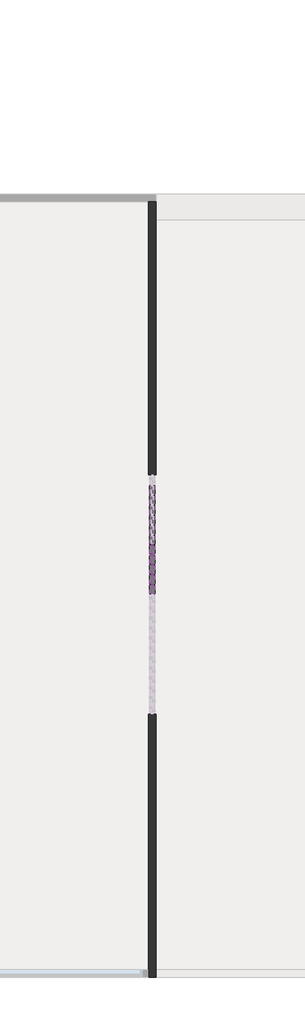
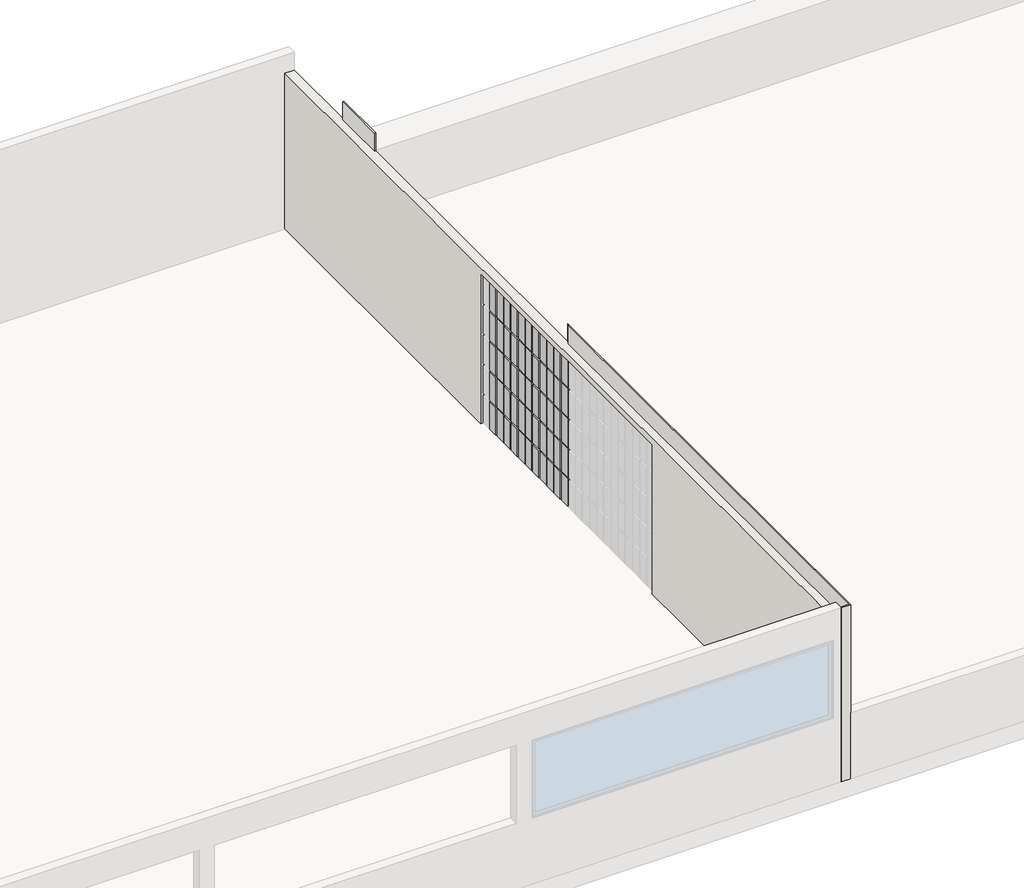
# One storey, part 5 of 9: 68 members, 55 plates, 1 wall.
"""IFC4 building model written with IfcOpenShell, lengths in millimetres."""

from ifc_helpers import new_model, si_unit, origin, place, context, project, spatial, faceted_brep, transform, mapped, element, save
from components import montante_retangular_30mm_quadrado_d4df406a, montante_retangular_30mm_quadrado_921f6540, montante_retangular_30mm_quadrado_d9064eb3, painel_do_sistema_vazio_vazio_aac5a565, painel_do_sistema_vazio_vazio_54d91eb3

model = new_model("IFC4")

# Units and contexts
model_context = context("Model", 3, world=origin())
ifc_project = project(units=[si_unit("LENGTHUNIT", "METRE", prefix="MILLI")], contexts=[model_context])

# Site, building, storey
site = spatial("IfcSite", under=ifc_project)
building = spatial("IfcBuilding", under=site)
storey = spatial("IfcBuildingStorey", under=building, Name="Garagem 1", Elevation=47850.0)

# Members
placement = place(None, origin())
montante_retangular_30mm_quadrado_shape = montante_retangular_30mm_quadrado_d4df406a(model_context)
element("IfcMember", 1, ObjectType="Montante retangular : 30mm Quadrado", at=placement, inside=storey, context=model_context, shape_type="MappedRepresentation", body=[
    mapped(montante_retangular_30mm_quadrado_shape, transform((-44730.8696428, 11087.259491, 50350.0), x_axis=(0.0, 0.0, 1.0), y_axis=(1.0, 0.0, 0.0), z_axis=(0.0, 1.0, 0.0))),
])
element("IfcMember", 2, ObjectType="Montante retangular : 30mm Quadrado", at=placement, inside=storey, context=model_context, shape_type="MappedRepresentation", body=[
    mapped(montante_retangular_30mm_quadrado_shape, transform((-44730.8696428, 11282.7371768, 50350.0), x_axis=(0.0, 0.0, 1.0), y_axis=(1.0, 0.0, 0.0), z_axis=(0.0, 1.0, 0.0))),
])
element("IfcMember", 3, ObjectType="Montante retangular : 30mm Quadrado", at=placement, inside=storey, context=model_context, shape_type="MappedRepresentation", body=[
    mapped(montante_retangular_30mm_quadrado_shape, transform((-44730.8696428, 11478.2148627, 50350.0), x_axis=(0.0, 0.0, 1.0), y_axis=(1.0, 0.0, 0.0), z_axis=(0.0, 1.0, 0.0))),
])
element("IfcMember", 4, ObjectType="Montante retangular : 30mm Quadrado", at=placement, inside=storey, context=model_context, shape_type="MappedRepresentation", body=[
    mapped(montante_retangular_30mm_quadrado_shape, transform((-44730.8696428, 11673.6925485, 50350.0), x_axis=(0.0, 0.0, 1.0), y_axis=(1.0, 0.0, 0.0), z_axis=(0.0, 1.0, 0.0))),
])
element("IfcMember", 5, ObjectType="Montante retangular : 30mm Quadrado", at=placement, inside=storey, context=model_context, shape_type="MappedRepresentation", body=[
    mapped(montante_retangular_30mm_quadrado_shape, transform((-44730.8696428, 11869.1702343, 50350.0), x_axis=(0.0, 0.0, 1.0), y_axis=(1.0, 0.0, 0.0), z_axis=(0.0, 1.0, 0.0))),
])
element("IfcMember", 6, ObjectType="Montante retangular : 30mm Quadrado", at=placement, inside=storey, context=model_context, shape_type="MappedRepresentation", body=[
    mapped(montante_retangular_30mm_quadrado_shape, transform((-44730.8696428, 12064.6479201, 50350.0), x_axis=(0.0, 0.0, 1.0), y_axis=(1.0, 0.0, 0.0), z_axis=(0.0, 1.0, 0.0))),
])
element("IfcMember", 7, ObjectType="Montante retangular : 30mm Quadrado", at=placement, inside=storey, context=model_context, shape_type="MappedRepresentation", body=[
    mapped(montante_retangular_30mm_quadrado_shape, transform((-44730.8696428, 12260.1256059, 50350.0), x_axis=(0.0, 0.0, 1.0), y_axis=(1.0, 0.0, 0.0), z_axis=(0.0, 1.0, 0.0))),
])
element("IfcMember", 8, ObjectType="Montante retangular : 30mm Quadrado", at=placement, inside=storey, context=model_context, shape_type="MappedRepresentation", body=[
    mapped(montante_retangular_30mm_quadrado_shape, transform((-44730.8696428, 12455.6032917, 50350.0), x_axis=(0.0, 0.0, 1.0), y_axis=(1.0, 0.0, 0.0), z_axis=(0.0, 1.0, 0.0))),
])
element("IfcMember", 9, ObjectType="Montante retangular : 30mm Quadrado", at=placement, inside=storey, context=model_context, shape_type="MappedRepresentation", body=[
    mapped(montante_retangular_30mm_quadrado_shape, transform((-44730.8696428, 12651.0809776, 50350.0), x_axis=(0.0, 0.0, 1.0), y_axis=(1.0, 0.0, 0.0), z_axis=(0.0, 1.0, 0.0))),
])
element("IfcMember", 10, ObjectType="Montante retangular : 30mm Quadrado", at=placement, inside=storey, context=model_context, shape_type="MappedRepresentation", body=[
    mapped(montante_retangular_30mm_quadrado_shape, transform((-44730.8696428, 12846.5586634, 50350.0), x_axis=(0.0, 0.0, 1.0), y_axis=(1.0, 0.0, 0.0), z_axis=(0.0, 1.0, 0.0))),
])
element("IfcMember", 11, ObjectType="Montante retangular : 30mm Quadrado", at=placement, inside=storey, context=model_context, shape_type="MappedRepresentation", body=[
    mapped(montante_retangular_30mm_quadrado_shape, transform((-44730.8696428, 11117.259491, 47850.0), x_axis=(0.0, 0.0, -1.0), y_axis=(1.0, 0.0, 0.0), z_axis=(0.0, -1.0, 0.0))),
])
element("IfcMember", 12, ObjectType="Montante retangular : 30mm Quadrado", at=placement, inside=storey, context=model_context, shape_type="MappedRepresentation", body=[
    mapped(montante_retangular_30mm_quadrado_shape, transform((-44730.8696428, 11312.7371768, 47850.0), x_axis=(0.0, 0.0, -1.0), y_axis=(1.0, 0.0, 0.0), z_axis=(0.0, -1.0, 0.0))),
])
element("IfcMember", 13, ObjectType="Montante retangular : 30mm Quadrado", at=placement, inside=storey, context=model_context, shape_type="MappedRepresentation", body=[
    mapped(montante_retangular_30mm_quadrado_shape, transform((-44730.8696428, 11508.2148627, 47850.0), x_axis=(0.0, 0.0, -1.0), y_axis=(1.0, 0.0, 0.0), z_axis=(0.0, -1.0, 0.0))),
])
element("IfcMember", 14, ObjectType="Montante retangular : 30mm Quadrado", at=placement, inside=storey, context=model_context, shape_type="MappedRepresentation", body=[
    mapped(montante_retangular_30mm_quadrado_shape, transform((-44730.8696428, 11703.6925485, 47850.0), x_axis=(0.0, 0.0, -1.0), y_axis=(1.0, 0.0, 0.0), z_axis=(0.0, -1.0, 0.0))),
])
element("IfcMember", 15, ObjectType="Montante retangular : 30mm Quadrado", at=placement, inside=storey, context=model_context, shape_type="MappedRepresentation", body=[
    mapped(montante_retangular_30mm_quadrado_shape, transform((-44730.8696428, 11899.1702343, 47850.0), x_axis=(0.0, 0.0, -1.0), y_axis=(1.0, 0.0, 0.0), z_axis=(0.0, -1.0, 0.0))),
])
element("IfcMember", 16, ObjectType="Montante retangular : 30mm Quadrado", at=placement, inside=storey, context=model_context, shape_type="MappedRepresentation", body=[
    mapped(montante_retangular_30mm_quadrado_shape, transform((-44730.8696428, 12094.6479201, 47850.0), x_axis=(0.0, 0.0, -1.0), y_axis=(1.0, 0.0, 0.0), z_axis=(0.0, -1.0, 0.0))),
])
element("IfcMember", 17, ObjectType="Montante retangular : 30mm Quadrado", at=placement, inside=storey, context=model_context, shape_type="MappedRepresentation", body=[
    mapped(montante_retangular_30mm_quadrado_shape, transform((-44730.8696428, 12290.1256059, 47850.0), x_axis=(0.0, 0.0, -1.0), y_axis=(1.0, 0.0, 0.0), z_axis=(0.0, -1.0, 0.0))),
])
element("IfcMember", 18, ObjectType="Montante retangular : 30mm Quadrado", at=placement, inside=storey, context=model_context, shape_type="MappedRepresentation", body=[
    mapped(montante_retangular_30mm_quadrado_shape, transform((-44730.8696428, 12485.6032917, 47850.0), x_axis=(0.0, 0.0, -1.0), y_axis=(1.0, 0.0, 0.0), z_axis=(0.0, -1.0, 0.0))),
])
element("IfcMember", 19, ObjectType="Montante retangular : 30mm Quadrado", at=placement, inside=storey, context=model_context, shape_type="MappedRepresentation", body=[
    mapped(montante_retangular_30mm_quadrado_shape, transform((-44730.8696428, 12681.0809776, 47850.0), x_axis=(0.0, 0.0, -1.0), y_axis=(1.0, 0.0, 0.0), z_axis=(0.0, -1.0, 0.0))),
])
element("IfcMember", 20, ObjectType="Montante retangular : 30mm Quadrado", at=placement, inside=storey, context=model_context, shape_type="MappedRepresentation", body=[
    mapped(montante_retangular_30mm_quadrado_shape, transform((-44730.8696428, 12876.5586634, 47850.0), x_axis=(0.0, 0.0, -1.0), y_axis=(1.0, 0.0, 0.0), z_axis=(0.0, -1.0, 0.0))),
])
montante_retangular_30mm_quadrado_2_shape = montante_retangular_30mm_quadrado_921f6540(model_context)
element("IfcMember", 21, ObjectType="Montante retangular : 30mm Quadrado", at=placement, inside=storey, context=model_context, shape_type="MappedRepresentation", body=[
    mapped(montante_retangular_30mm_quadrado_2_shape, transform((-44730.8696428, 11087.259491, 48350.0), x_axis=(0.0, 0.0, 1.0), y_axis=(1.0, 0.0, 0.0), z_axis=(0.0, 1.0, 0.0))),
])
element("IfcMember", 22, ObjectType="Montante retangular : 30mm Quadrado", at=placement, inside=storey, context=model_context, shape_type="MappedRepresentation", body=[
    mapped(montante_retangular_30mm_quadrado_2_shape, transform((-44730.8696428, 11282.7371768, 48350.0), x_axis=(0.0, 0.0, 1.0), y_axis=(1.0, 0.0, 0.0), z_axis=(0.0, 1.0, 0.0))),
])
element("IfcMember", 23, ObjectType="Montante retangular : 30mm Quadrado", at=placement, inside=storey, context=model_context, shape_type="MappedRepresentation", body=[
    mapped(montante_retangular_30mm_quadrado_2_shape, transform((-44730.8696428, 11478.2148627, 48350.0), x_axis=(0.0, 0.0, 1.0), y_axis=(1.0, 0.0, 0.0), z_axis=(0.0, 1.0, 0.0))),
])
element("IfcMember", 24, ObjectType="Montante retangular : 30mm Quadrado", at=placement, inside=storey, context=model_context, shape_type="MappedRepresentation", body=[
    mapped(montante_retangular_30mm_quadrado_2_shape, transform((-44730.8696428, 11673.6925485, 48350.0), x_axis=(0.0, 0.0, 1.0), y_axis=(1.0, 0.0, 0.0), z_axis=(0.0, 1.0, 0.0))),
])
element("IfcMember", 25, ObjectType="Montante retangular : 30mm Quadrado", at=placement, inside=storey, context=model_context, shape_type="MappedRepresentation", body=[
    mapped(montante_retangular_30mm_quadrado_2_shape, transform((-44730.8696428, 11869.1702343, 48350.0), x_axis=(0.0, 0.0, 1.0), y_axis=(1.0, 0.0, 0.0), z_axis=(0.0, 1.0, 0.0))),
])
element("IfcMember", 26, ObjectType="Montante retangular : 30mm Quadrado", at=placement, inside=storey, context=model_context, shape_type="MappedRepresentation", body=[
    mapped(montante_retangular_30mm_quadrado_2_shape, transform((-44730.8696428, 12064.6479201, 48350.0), x_axis=(0.0, 0.0, 1.0), y_axis=(1.0, 0.0, 0.0), z_axis=(0.0, 1.0, 0.0))),
])
element("IfcMember", 27, ObjectType="Montante retangular : 30mm Quadrado", at=placement, inside=storey, context=model_context, shape_type="MappedRepresentation", body=[
    mapped(montante_retangular_30mm_quadrado_2_shape, transform((-44730.8696428, 12260.1256059, 48350.0), x_axis=(0.0, 0.0, 1.0), y_axis=(1.0, 0.0, 0.0), z_axis=(0.0, 1.0, 0.0))),
])
element("IfcMember", 28, ObjectType="Montante retangular : 30mm Quadrado", at=placement, inside=storey, context=model_context, shape_type="MappedRepresentation", body=[
    mapped(montante_retangular_30mm_quadrado_2_shape, transform((-44730.8696428, 12455.6032917, 48350.0), x_axis=(0.0, 0.0, 1.0), y_axis=(1.0, 0.0, 0.0), z_axis=(0.0, 1.0, 0.0))),
])
element("IfcMember", 29, ObjectType="Montante retangular : 30mm Quadrado", at=placement, inside=storey, context=model_context, shape_type="MappedRepresentation", body=[
    mapped(montante_retangular_30mm_quadrado_2_shape, transform((-44730.8696428, 11087.259491, 48850.0), x_axis=(0.0, 0.0, 1.0), y_axis=(1.0, 0.0, 0.0), z_axis=(0.0, 1.0, 0.0))),
])
element("IfcMember", 30, ObjectType="Montante retangular : 30mm Quadrado", at=placement, inside=storey, context=model_context, shape_type="MappedRepresentation", body=[
    mapped(montante_retangular_30mm_quadrado_2_shape, transform((-44730.8696428, 11282.7371768, 48850.0), x_axis=(0.0, 0.0, 1.0), y_axis=(1.0, 0.0, 0.0), z_axis=(0.0, 1.0, 0.0))),
])
element("IfcMember", 31, ObjectType="Montante retangular : 30mm Quadrado", at=placement, inside=storey, context=model_context, shape_type="MappedRepresentation", body=[
    mapped(montante_retangular_30mm_quadrado_2_shape, transform((-44730.8696428, 11478.2148627, 48850.0), x_axis=(0.0, 0.0, 1.0), y_axis=(1.0, 0.0, 0.0), z_axis=(0.0, 1.0, 0.0))),
])
element("IfcMember", 32, ObjectType="Montante retangular : 30mm Quadrado", at=placement, inside=storey, context=model_context, shape_type="MappedRepresentation", body=[
    mapped(montante_retangular_30mm_quadrado_2_shape, transform((-44730.8696428, 11673.6925485, 48850.0), x_axis=(0.0, 0.0, 1.0), y_axis=(1.0, 0.0, 0.0), z_axis=(0.0, 1.0, 0.0))),
])
element("IfcMember", 33, ObjectType="Montante retangular : 30mm Quadrado", at=placement, inside=storey, context=model_context, shape_type="MappedRepresentation", body=[
    mapped(montante_retangular_30mm_quadrado_2_shape, transform((-44730.8696428, 11869.1702343, 48850.0), x_axis=(0.0, 0.0, 1.0), y_axis=(1.0, 0.0, 0.0), z_axis=(0.0, 1.0, 0.0))),
])
element("IfcMember", 34, ObjectType="Montante retangular : 30mm Quadrado", at=placement, inside=storey, context=model_context, shape_type="MappedRepresentation", body=[
    mapped(montante_retangular_30mm_quadrado_2_shape, transform((-44730.8696428, 11087.259491, 49350.0), x_axis=(0.0, 0.0, 1.0), y_axis=(1.0, 0.0, 0.0), z_axis=(0.0, 1.0, 0.0))),
])
element("IfcMember", 35, ObjectType="Montante retangular : 30mm Quadrado", at=placement, inside=storey, context=model_context, shape_type="MappedRepresentation", body=[
    mapped(montante_retangular_30mm_quadrado_2_shape, transform((-44730.8696428, 11282.7371768, 49350.0), x_axis=(0.0, 0.0, 1.0), y_axis=(1.0, 0.0, 0.0), z_axis=(0.0, 1.0, 0.0))),
])
element("IfcMember", 36, ObjectType="Montante retangular : 30mm Quadrado", at=placement, inside=storey, context=model_context, shape_type="MappedRepresentation", body=[
    mapped(montante_retangular_30mm_quadrado_2_shape, transform((-44730.8696428, 11478.2148627, 49350.0), x_axis=(0.0, 0.0, 1.0), y_axis=(1.0, 0.0, 0.0), z_axis=(0.0, 1.0, 0.0))),
])
element("IfcMember", 37, ObjectType="Montante retangular : 30mm Quadrado", at=placement, inside=storey, context=model_context, shape_type="MappedRepresentation", body=[
    mapped(montante_retangular_30mm_quadrado_2_shape, transform((-44730.8696428, 11673.6925485, 49350.0), x_axis=(0.0, 0.0, 1.0), y_axis=(1.0, 0.0, 0.0), z_axis=(0.0, 1.0, 0.0))),
])
element("IfcMember", 38, ObjectType="Montante retangular : 30mm Quadrado", at=placement, inside=storey, context=model_context, shape_type="MappedRepresentation", body=[
    mapped(montante_retangular_30mm_quadrado_2_shape, transform((-44730.8696428, 11869.1702343, 49350.0), x_axis=(0.0, 0.0, 1.0), y_axis=(1.0, 0.0, 0.0), z_axis=(0.0, 1.0, 0.0))),
])
element("IfcMember", 39, ObjectType="Montante retangular : 30mm Quadrado", at=placement, inside=storey, context=model_context, shape_type="MappedRepresentation", body=[
    mapped(montante_retangular_30mm_quadrado_2_shape, transform((-44730.8696428, 11087.259491, 49850.0), x_axis=(0.0, 0.0, 1.0), y_axis=(1.0, 0.0, 0.0), z_axis=(0.0, 1.0, 0.0))),
])
element("IfcMember", 40, ObjectType="Montante retangular : 30mm Quadrado", at=placement, inside=storey, context=model_context, shape_type="MappedRepresentation", body=[
    mapped(montante_retangular_30mm_quadrado_2_shape, transform((-44730.8696428, 11282.7371768, 49850.0), x_axis=(0.0, 0.0, 1.0), y_axis=(1.0, 0.0, 0.0), z_axis=(0.0, 1.0, 0.0))),
])
element("IfcMember", 41, ObjectType="Montante retangular : 30mm Quadrado", at=placement, inside=storey, context=model_context, shape_type="MappedRepresentation", body=[
    mapped(montante_retangular_30mm_quadrado_2_shape, transform((-44730.8696428, 11478.2148627, 49850.0), x_axis=(0.0, 0.0, 1.0), y_axis=(1.0, 0.0, 0.0), z_axis=(0.0, 1.0, 0.0))),
])
element("IfcMember", 42, ObjectType="Montante retangular : 30mm Quadrado", at=placement, inside=storey, context=model_context, shape_type="MappedRepresentation", body=[
    mapped(montante_retangular_30mm_quadrado_2_shape, transform((-44730.8696428, 11673.6925485, 49850.0), x_axis=(0.0, 0.0, 1.0), y_axis=(1.0, 0.0, 0.0), z_axis=(0.0, 1.0, 0.0))),
])
element("IfcMember", 43, ObjectType="Montante retangular : 30mm Quadrado", at=placement, inside=storey, context=model_context, shape_type="MappedRepresentation", body=[
    mapped(montante_retangular_30mm_quadrado_2_shape, transform((-44730.8696428, 11869.1702343, 49850.0), x_axis=(0.0, 0.0, 1.0), y_axis=(1.0, 0.0, 0.0), z_axis=(0.0, 1.0, 0.0))),
])
montante_retangular_30mm_quadrado_3_shape = montante_retangular_30mm_quadrado_d9064eb3(model_context)
element("IfcMember", 44, ObjectType="Montante retangular : 30mm Quadrado", at=placement, inside=storey, context=model_context, shape_type="MappedRepresentation", body=[
    mapped(montante_retangular_30mm_quadrado_3_shape, transform((-44730.8696428, 11102.259491, 47850.0), x_axis=(0.0, 1.0, 0.0), y_axis=(1.0, 0.0, 0.0), z_axis=(0.0, 0.0, -1.0))),
])
element("IfcMember", 45, ObjectType="Montante retangular : 30mm Quadrado", at=placement, inside=storey, context=model_context, shape_type="MappedRepresentation", body=[
    mapped(montante_retangular_30mm_quadrado_3_shape, transform((-44730.8696428, 11297.7371768, 47850.0), x_axis=(0.0, 1.0, 0.0), y_axis=(1.0, 0.0, 0.0), z_axis=(0.0, 0.0, -1.0))),
])
element("IfcMember", 46, ObjectType="Montante retangular : 30mm Quadrado", at=placement, inside=storey, context=model_context, shape_type="MappedRepresentation", body=[
    mapped(montante_retangular_30mm_quadrado_3_shape, transform((-44730.8696428, 11493.2148627, 47850.0), x_axis=(0.0, 1.0, 0.0), y_axis=(1.0, 0.0, 0.0), z_axis=(0.0, 0.0, -1.0))),
])
element("IfcMember", 47, ObjectType="Montante retangular : 30mm Quadrado", at=placement, inside=storey, context=model_context, shape_type="MappedRepresentation", body=[
    mapped(montante_retangular_30mm_quadrado_3_shape, transform((-44730.8696428, 11688.6925485, 47850.0), x_axis=(0.0, 1.0, 0.0), y_axis=(1.0, 0.0, 0.0), z_axis=(0.0, 0.0, -1.0))),
])
element("IfcMember", 48, ObjectType="Montante retangular : 30mm Quadrado", at=placement, inside=storey, context=model_context, shape_type="MappedRepresentation", body=[
    mapped(montante_retangular_30mm_quadrado_3_shape, transform((-44730.8696428, 11884.1702343, 47850.0), x_axis=(0.0, 1.0, 0.0), y_axis=(1.0, 0.0, 0.0), z_axis=(0.0, 0.0, -1.0))),
])
element("IfcMember", 49, ObjectType="Montante retangular : 30mm Quadrado", at=placement, inside=storey, context=model_context, shape_type="MappedRepresentation", body=[
    mapped(montante_retangular_30mm_quadrado_3_shape, transform((-44730.8696428, 11102.259491, 48350.0), x_axis=(0.0, 1.0, 0.0), y_axis=(1.0, 0.0, 0.0), z_axis=(0.0, 0.0, -1.0))),
])
element("IfcMember", 50, ObjectType="Montante retangular : 30mm Quadrado", at=placement, inside=storey, context=model_context, shape_type="MappedRepresentation", body=[
    mapped(montante_retangular_30mm_quadrado_3_shape, transform((-44730.8696428, 11297.7371768, 48350.0), x_axis=(0.0, 1.0, 0.0), y_axis=(1.0, 0.0, 0.0), z_axis=(0.0, 0.0, -1.0))),
])
element("IfcMember", 51, ObjectType="Montante retangular : 30mm Quadrado", at=placement, inside=storey, context=model_context, shape_type="MappedRepresentation", body=[
    mapped(montante_retangular_30mm_quadrado_3_shape, transform((-44730.8696428, 11493.2148627, 48350.0), x_axis=(0.0, 1.0, 0.0), y_axis=(1.0, 0.0, 0.0), z_axis=(0.0, 0.0, -1.0))),
])
element("IfcMember", 52, ObjectType="Montante retangular : 30mm Quadrado", at=placement, inside=storey, context=model_context, shape_type="MappedRepresentation", body=[
    mapped(montante_retangular_30mm_quadrado_3_shape, transform((-44730.8696428, 11688.6925485, 48350.0), x_axis=(0.0, 1.0, 0.0), y_axis=(1.0, 0.0, 0.0), z_axis=(0.0, 0.0, -1.0))),
])
element("IfcMember", 53, ObjectType="Montante retangular : 30mm Quadrado", at=placement, inside=storey, context=model_context, shape_type="MappedRepresentation", body=[
    mapped(montante_retangular_30mm_quadrado_3_shape, transform((-44730.8696428, 11884.1702343, 48350.0), x_axis=(0.0, 1.0, 0.0), y_axis=(1.0, 0.0, 0.0), z_axis=(0.0, 0.0, -1.0))),
])
element("IfcMember", 54, ObjectType="Montante retangular : 30mm Quadrado", at=placement, inside=storey, context=model_context, shape_type="MappedRepresentation", body=[
    mapped(montante_retangular_30mm_quadrado_3_shape, transform((-44730.8696428, 11102.259491, 48850.0), x_axis=(0.0, 1.0, 0.0), y_axis=(1.0, 0.0, 0.0), z_axis=(0.0, 0.0, -1.0))),
])
element("IfcMember", 55, ObjectType="Montante retangular : 30mm Quadrado", at=placement, inside=storey, context=model_context, shape_type="MappedRepresentation", body=[
    mapped(montante_retangular_30mm_quadrado_3_shape, transform((-44730.8696428, 11297.7371768, 48850.0), x_axis=(0.0, 1.0, 0.0), y_axis=(1.0, 0.0, 0.0), z_axis=(0.0, 0.0, -1.0))),
])
element("IfcMember", 56, ObjectType="Montante retangular : 30mm Quadrado", at=placement, inside=storey, context=model_context, shape_type="MappedRepresentation", body=[
    mapped(montante_retangular_30mm_quadrado_3_shape, transform((-44730.8696428, 11493.2148627, 48850.0), x_axis=(0.0, 1.0, 0.0), y_axis=(1.0, 0.0, 0.0), z_axis=(0.0, 0.0, -1.0))),
])
element("IfcMember", 57, ObjectType="Montante retangular : 30mm Quadrado", at=placement, inside=storey, context=model_context, shape_type="MappedRepresentation", body=[
    mapped(montante_retangular_30mm_quadrado_3_shape, transform((-44730.8696428, 11688.6925485, 48850.0), x_axis=(0.0, 1.0, 0.0), y_axis=(1.0, 0.0, 0.0), z_axis=(0.0, 0.0, -1.0))),
])
element("IfcMember", 58, ObjectType="Montante retangular : 30mm Quadrado", at=placement, inside=storey, context=model_context, shape_type="MappedRepresentation", body=[
    mapped(montante_retangular_30mm_quadrado_3_shape, transform((-44730.8696428, 11884.1702343, 48850.0), x_axis=(0.0, 1.0, 0.0), y_axis=(1.0, 0.0, 0.0), z_axis=(0.0, 0.0, -1.0))),
])
element("IfcMember", 59, ObjectType="Montante retangular : 30mm Quadrado", at=placement, inside=storey, context=model_context, shape_type="MappedRepresentation", body=[
    mapped(montante_retangular_30mm_quadrado_3_shape, transform((-44730.8696428, 11102.259491, 49350.0), x_axis=(0.0, 1.0, 0.0), y_axis=(1.0, 0.0, 0.0), z_axis=(0.0, 0.0, -1.0))),
])
element("IfcMember", 60, ObjectType="Montante retangular : 30mm Quadrado", at=placement, inside=storey, context=model_context, shape_type="MappedRepresentation", body=[
    mapped(montante_retangular_30mm_quadrado_3_shape, transform((-44730.8696428, 11297.7371768, 49350.0), x_axis=(0.0, 1.0, 0.0), y_axis=(1.0, 0.0, 0.0), z_axis=(0.0, 0.0, -1.0))),
])
element("IfcMember", 61, ObjectType="Montante retangular : 30mm Quadrado", at=placement, inside=storey, context=model_context, shape_type="MappedRepresentation", body=[
    mapped(montante_retangular_30mm_quadrado_3_shape, transform((-44730.8696428, 11493.2148627, 49350.0), x_axis=(0.0, 1.0, 0.0), y_axis=(1.0, 0.0, 0.0), z_axis=(0.0, 0.0, -1.0))),
])
element("IfcMember", 62, ObjectType="Montante retangular : 30mm Quadrado", at=placement, inside=storey, context=model_context, shape_type="MappedRepresentation", body=[
    mapped(montante_retangular_30mm_quadrado_3_shape, transform((-44730.8696428, 11688.6925485, 49350.0), x_axis=(0.0, 1.0, 0.0), y_axis=(1.0, 0.0, 0.0), z_axis=(0.0, 0.0, -1.0))),
])
element("IfcMember", 63, ObjectType="Montante retangular : 30mm Quadrado", at=placement, inside=storey, context=model_context, shape_type="MappedRepresentation", body=[
    mapped(montante_retangular_30mm_quadrado_3_shape, transform((-44730.8696428, 11884.1702343, 49350.0), x_axis=(0.0, 1.0, 0.0), y_axis=(1.0, 0.0, 0.0), z_axis=(0.0, 0.0, -1.0))),
])
element("IfcMember", 64, ObjectType="Montante retangular : 30mm Quadrado", at=placement, inside=storey, context=model_context, shape_type="MappedRepresentation", body=[
    mapped(montante_retangular_30mm_quadrado_3_shape, transform((-44730.8696428, 11102.259491, 49850.0), x_axis=(0.0, 1.0, 0.0), y_axis=(1.0, 0.0, 0.0), z_axis=(0.0, 0.0, -1.0))),
])
element("IfcMember", 65, ObjectType="Montante retangular : 30mm Quadrado", at=placement, inside=storey, context=model_context, shape_type="MappedRepresentation", body=[
    mapped(montante_retangular_30mm_quadrado_3_shape, transform((-44730.8696428, 11297.7371768, 49850.0), x_axis=(0.0, 1.0, 0.0), y_axis=(1.0, 0.0, 0.0), z_axis=(0.0, 0.0, -1.0))),
])
element("IfcMember", 66, ObjectType="Montante retangular : 30mm Quadrado", at=placement, inside=storey, context=model_context, shape_type="MappedRepresentation", body=[
    mapped(montante_retangular_30mm_quadrado_3_shape, transform((-44730.8696428, 11493.2148627, 49850.0), x_axis=(0.0, 1.0, 0.0), y_axis=(1.0, 0.0, 0.0), z_axis=(0.0, 0.0, -1.0))),
])
element("IfcMember", 67, ObjectType="Montante retangular : 30mm Quadrado", at=placement, inside=storey, context=model_context, shape_type="MappedRepresentation", body=[
    mapped(montante_retangular_30mm_quadrado_3_shape, transform((-44730.8696428, 11688.6925485, 49850.0), x_axis=(0.0, 1.0, 0.0), y_axis=(1.0, 0.0, 0.0), z_axis=(0.0, 0.0, -1.0))),
])
element("IfcMember", 68, ObjectType="Montante retangular : 30mm Quadrado", at=placement, inside=storey, context=model_context, shape_type="MappedRepresentation", body=[
    mapped(montante_retangular_30mm_quadrado_3_shape, transform((-44730.8696428, 11884.1702343, 49850.0), x_axis=(0.0, 1.0, 0.0), y_axis=(1.0, 0.0, 0.0), z_axis=(0.0, 0.0, -1.0))),
])

# Plates
painel_do_sistema_vazio_vazio_shape = painel_do_sistema_vazio_vazio_aac5a565(model_context)
element("IfcPlate", 69, ObjectType="Painel do sistema vazio : Vazio", at=placement, inside=storey, context=model_context, shape_type="MappedRepresentation", body=[
    mapped(painel_do_sistema_vazio_vazio_shape, transform((-44730.8696428, 11004.5206481, 47880.0), x_axis=(0.0, 1.0, 0.0), y_axis=(-1.0, 0.0, 0.0), z_axis=(0.0, 0.0, 1.0))),
])
element("IfcPlate", 70, ObjectType="Painel do sistema vazio : Vazio", at=placement, inside=storey, context=model_context, shape_type="MappedRepresentation", body=[
    mapped(painel_do_sistema_vazio_vazio_shape, transform((-44730.8696428, 11199.9983339, 47880.0), x_axis=(0.0, 1.0, 0.0), y_axis=(-1.0, 0.0, 0.0), z_axis=(0.0, 0.0, 1.0))),
])
element("IfcPlate", 71, ObjectType="Painel do sistema vazio : Vazio", at=placement, inside=storey, context=model_context, shape_type="MappedRepresentation", body=[
    mapped(painel_do_sistema_vazio_vazio_shape, transform((-44730.8696428, 11395.4760197, 47880.0), x_axis=(0.0, 1.0, 0.0), y_axis=(-1.0, 0.0, 0.0), z_axis=(0.0, 0.0, 1.0))),
])
element("IfcPlate", 72, ObjectType="Painel do sistema vazio : Vazio", at=placement, inside=storey, context=model_context, shape_type="MappedRepresentation", body=[
    mapped(painel_do_sistema_vazio_vazio_shape, transform((-44730.8696428, 11590.9537056, 47880.0), x_axis=(0.0, 1.0, 0.0), y_axis=(-1.0, 0.0, 0.0), z_axis=(0.0, 0.0, 1.0))),
])
element("IfcPlate", 73, ObjectType="Painel do sistema vazio : Vazio", at=placement, inside=storey, context=model_context, shape_type="MappedRepresentation", body=[
    mapped(painel_do_sistema_vazio_vazio_shape, transform((-44730.8696428, 11786.4313914, 47880.0), x_axis=(0.0, 1.0, 0.0), y_axis=(-1.0, 0.0, 0.0), z_axis=(0.0, 0.0, 1.0))),
])
element("IfcPlate", 74, ObjectType="Painel do sistema vazio : Vazio", at=placement, inside=storey, context=model_context, shape_type="MappedRepresentation", body=[
    mapped(painel_do_sistema_vazio_vazio_shape, transform((-44730.8696428, 11981.9090772, 47880.0), x_axis=(0.0, 1.0, 0.0), y_axis=(-1.0, 0.0, 0.0), z_axis=(0.0, 0.0, 1.0))),
])
element("IfcPlate", 75, ObjectType="Painel do sistema vazio : Vazio", at=placement, inside=storey, context=model_context, shape_type="MappedRepresentation", body=[
    mapped(painel_do_sistema_vazio_vazio_shape, transform((-44730.8696428, 12177.386763, 47880.0), x_axis=(0.0, 1.0, 0.0), y_axis=(-1.0, 0.0, 0.0), z_axis=(0.0, 0.0, 1.0))),
])
element("IfcPlate", 76, ObjectType="Painel do sistema vazio : Vazio", at=placement, inside=storey, context=model_context, shape_type="MappedRepresentation", body=[
    mapped(painel_do_sistema_vazio_vazio_shape, transform((-44730.8696428, 12372.8644488, 47880.0), x_axis=(0.0, 1.0, 0.0), y_axis=(-1.0, 0.0, 0.0), z_axis=(0.0, 0.0, 1.0))),
])
element("IfcPlate", 77, ObjectType="Painel do sistema vazio : Vazio", at=placement, inside=storey, context=model_context, shape_type="MappedRepresentation", body=[
    mapped(painel_do_sistema_vazio_vazio_shape, transform((-44730.8696428, 12568.3421346, 47880.0), x_axis=(0.0, 1.0, 0.0), y_axis=(-1.0, 0.0, 0.0), z_axis=(0.0, 0.0, 1.0))),
])
element("IfcPlate", 78, ObjectType="Painel do sistema vazio : Vazio", at=placement, inside=storey, context=model_context, shape_type="MappedRepresentation", body=[
    mapped(painel_do_sistema_vazio_vazio_shape, transform((-44730.8696428, 12763.8198205, 47880.0), x_axis=(0.0, 1.0, 0.0), y_axis=(-1.0, 0.0, 0.0), z_axis=(0.0, 0.0, 1.0))),
])
element("IfcPlate", 79, ObjectType="Painel do sistema vazio : Vazio", at=placement, inside=storey, context=model_context, shape_type="MappedRepresentation", body=[
    mapped(painel_do_sistema_vazio_vazio_shape, transform((-44730.8696428, 12959.2975063, 47880.0), x_axis=(0.0, 1.0, 0.0), y_axis=(-1.0, 0.0, 0.0), z_axis=(0.0, 0.0, 1.0))),
])
element("IfcPlate", 80, ObjectType="Painel do sistema vazio : Vazio", at=placement, inside=storey, context=model_context, shape_type="MappedRepresentation", body=[
    mapped(painel_do_sistema_vazio_vazio_shape, transform((-44730.8696428, 11004.5206481, 49865.0), x_axis=(0.0, 1.0, 0.0), y_axis=(-1.0, 0.0, 0.0), z_axis=(0.0, 0.0, 1.0))),
])
element("IfcPlate", 81, ObjectType="Painel do sistema vazio : Vazio", at=placement, inside=storey, context=model_context, shape_type="MappedRepresentation", body=[
    mapped(painel_do_sistema_vazio_vazio_shape, transform((-44730.8696428, 11199.9983339, 49865.0), x_axis=(0.0, 1.0, 0.0), y_axis=(-1.0, 0.0, 0.0), z_axis=(0.0, 0.0, 1.0))),
])
element("IfcPlate", 82, ObjectType="Painel do sistema vazio : Vazio", at=placement, inside=storey, context=model_context, shape_type="MappedRepresentation", body=[
    mapped(painel_do_sistema_vazio_vazio_shape, transform((-44730.8696428, 11395.4760197, 49865.0), x_axis=(0.0, 1.0, 0.0), y_axis=(-1.0, 0.0, 0.0), z_axis=(0.0, 0.0, 1.0))),
])
element("IfcPlate", 83, ObjectType="Painel do sistema vazio : Vazio", at=placement, inside=storey, context=model_context, shape_type="MappedRepresentation", body=[
    mapped(painel_do_sistema_vazio_vazio_shape, transform((-44730.8696428, 11590.9537056, 49865.0), x_axis=(0.0, 1.0, 0.0), y_axis=(-1.0, 0.0, 0.0), z_axis=(0.0, 0.0, 1.0))),
])
element("IfcPlate", 84, ObjectType="Painel do sistema vazio : Vazio", at=placement, inside=storey, context=model_context, shape_type="MappedRepresentation", body=[
    mapped(painel_do_sistema_vazio_vazio_shape, transform((-44730.8696428, 11786.4313914, 49865.0), x_axis=(0.0, 1.0, 0.0), y_axis=(-1.0, 0.0, 0.0), z_axis=(0.0, 0.0, 1.0))),
])
element("IfcPlate", 85, ObjectType="Painel do sistema vazio : Vazio", at=placement, inside=storey, context=model_context, shape_type="MappedRepresentation", body=[
    mapped(painel_do_sistema_vazio_vazio_shape, transform((-44730.8696428, 11981.9090772, 49865.0), x_axis=(0.0, 1.0, 0.0), y_axis=(-1.0, 0.0, 0.0), z_axis=(0.0, 0.0, 1.0))),
])
element("IfcPlate", 86, ObjectType="Painel do sistema vazio : Vazio", at=placement, inside=storey, context=model_context, shape_type="MappedRepresentation", body=[
    mapped(painel_do_sistema_vazio_vazio_shape, transform((-44730.8696428, 12177.386763, 49865.0), x_axis=(0.0, 1.0, 0.0), y_axis=(-1.0, 0.0, 0.0), z_axis=(0.0, 0.0, 1.0))),
])
element("IfcPlate", 87, ObjectType="Painel do sistema vazio : Vazio", at=placement, inside=storey, context=model_context, shape_type="MappedRepresentation", body=[
    mapped(painel_do_sistema_vazio_vazio_shape, transform((-44730.8696428, 12372.8644488, 49865.0), x_axis=(0.0, 1.0, 0.0), y_axis=(-1.0, 0.0, 0.0), z_axis=(0.0, 0.0, 1.0))),
])
element("IfcPlate", 88, ObjectType="Painel do sistema vazio : Vazio", at=placement, inside=storey, context=model_context, shape_type="MappedRepresentation", body=[
    mapped(painel_do_sistema_vazio_vazio_shape, transform((-44730.8696428, 12568.3421346, 49865.0), x_axis=(0.0, 1.0, 0.0), y_axis=(-1.0, 0.0, 0.0), z_axis=(0.0, 0.0, 1.0))),
])
element("IfcPlate", 89, ObjectType="Painel do sistema vazio : Vazio", at=placement, inside=storey, context=model_context, shape_type="MappedRepresentation", body=[
    mapped(painel_do_sistema_vazio_vazio_shape, transform((-44730.8696428, 12763.8198205, 49865.0), x_axis=(0.0, 1.0, 0.0), y_axis=(-1.0, 0.0, 0.0), z_axis=(0.0, 0.0, 1.0))),
])
element("IfcPlate", 90, ObjectType="Painel do sistema vazio : Vazio", at=placement, inside=storey, context=model_context, shape_type="MappedRepresentation", body=[
    mapped(painel_do_sistema_vazio_vazio_shape, transform((-44730.8696428, 12959.2975063, 49865.0), x_axis=(0.0, 1.0, 0.0), y_axis=(-1.0, 0.0, 0.0), z_axis=(0.0, 0.0, 1.0))),
])
painel_do_sistema_vazio_vazio_2_shape = painel_do_sistema_vazio_vazio_54d91eb3(model_context)
element("IfcPlate", 91, ObjectType="Painel do sistema vazio : Vazio", at=placement, inside=storey, context=model_context, shape_type="MappedRepresentation", body=[
    mapped(painel_do_sistema_vazio_vazio_2_shape, transform((-44730.8696428, 11004.5206481, 48365.0), x_axis=(0.0, 1.0, 0.0), y_axis=(-1.0, 0.0, 0.0), z_axis=(0.0, 0.0, 1.0))),
])
element("IfcPlate", 92, ObjectType="Painel do sistema vazio : Vazio", at=placement, inside=storey, context=model_context, shape_type="MappedRepresentation", body=[
    mapped(painel_do_sistema_vazio_vazio_2_shape, transform((-44730.8696428, 11199.9983339, 48365.0), x_axis=(0.0, 1.0, 0.0), y_axis=(-1.0, 0.0, 0.0), z_axis=(0.0, 0.0, 1.0))),
])
element("IfcPlate", 93, ObjectType="Painel do sistema vazio : Vazio", at=placement, inside=storey, context=model_context, shape_type="MappedRepresentation", body=[
    mapped(painel_do_sistema_vazio_vazio_2_shape, transform((-44730.8696428, 11395.4760197, 48365.0), x_axis=(0.0, 1.0, 0.0), y_axis=(-1.0, 0.0, 0.0), z_axis=(0.0, 0.0, 1.0))),
])
element("IfcPlate", 94, ObjectType="Painel do sistema vazio : Vazio", at=placement, inside=storey, context=model_context, shape_type="MappedRepresentation", body=[
    mapped(painel_do_sistema_vazio_vazio_2_shape, transform((-44730.8696428, 11590.9537056, 48365.0), x_axis=(0.0, 1.0, 0.0), y_axis=(-1.0, 0.0, 0.0), z_axis=(0.0, 0.0, 1.0))),
])
element("IfcPlate", 95, ObjectType="Painel do sistema vazio : Vazio", at=placement, inside=storey, context=model_context, shape_type="MappedRepresentation", body=[
    mapped(painel_do_sistema_vazio_vazio_2_shape, transform((-44730.8696428, 11786.4313914, 48365.0), x_axis=(0.0, 1.0, 0.0), y_axis=(-1.0, 0.0, 0.0), z_axis=(0.0, 0.0, 1.0))),
])
element("IfcPlate", 96, ObjectType="Painel do sistema vazio : Vazio", at=placement, inside=storey, context=model_context, shape_type="MappedRepresentation", body=[
    mapped(painel_do_sistema_vazio_vazio_2_shape, transform((-44730.8696428, 11981.9090772, 48365.0), x_axis=(0.0, 1.0, 0.0), y_axis=(-1.0, 0.0, 0.0), z_axis=(0.0, 0.0, 1.0))),
])
element("IfcPlate", 97, ObjectType="Painel do sistema vazio : Vazio", at=placement, inside=storey, context=model_context, shape_type="MappedRepresentation", body=[
    mapped(painel_do_sistema_vazio_vazio_2_shape, transform((-44730.8696428, 12177.386763, 48365.0), x_axis=(0.0, 1.0, 0.0), y_axis=(-1.0, 0.0, 0.0), z_axis=(0.0, 0.0, 1.0))),
])
element("IfcPlate", 98, ObjectType="Painel do sistema vazio : Vazio", at=placement, inside=storey, context=model_context, shape_type="MappedRepresentation", body=[
    mapped(painel_do_sistema_vazio_vazio_2_shape, transform((-44730.8696428, 12372.8644488, 48365.0), x_axis=(0.0, 1.0, 0.0), y_axis=(-1.0, 0.0, 0.0), z_axis=(0.0, 0.0, 1.0))),
])
element("IfcPlate", 99, ObjectType="Painel do sistema vazio : Vazio", at=placement, inside=storey, context=model_context, shape_type="MappedRepresentation", body=[
    mapped(painel_do_sistema_vazio_vazio_2_shape, transform((-44730.8696428, 12568.3421346, 48365.0), x_axis=(0.0, 1.0, 0.0), y_axis=(-1.0, 0.0, 0.0), z_axis=(0.0, 0.0, 1.0))),
])
element("IfcPlate", 100, ObjectType="Painel do sistema vazio : Vazio", at=placement, inside=storey, context=model_context, shape_type="MappedRepresentation", body=[
    mapped(painel_do_sistema_vazio_vazio_2_shape, transform((-44730.8696428, 12763.8198205, 48365.0), x_axis=(0.0, 1.0, 0.0), y_axis=(-1.0, 0.0, 0.0), z_axis=(0.0, 0.0, 1.0))),
])
element("IfcPlate", 101, ObjectType="Painel do sistema vazio : Vazio", at=placement, inside=storey, context=model_context, shape_type="MappedRepresentation", body=[
    mapped(painel_do_sistema_vazio_vazio_2_shape, transform((-44730.8696428, 12959.2975063, 48365.0), x_axis=(0.0, 1.0, 0.0), y_axis=(-1.0, 0.0, 0.0), z_axis=(0.0, 0.0, 1.0))),
])
element("IfcPlate", 102, ObjectType="Painel do sistema vazio : Vazio", at=placement, inside=storey, context=model_context, shape_type="MappedRepresentation", body=[
    mapped(painel_do_sistema_vazio_vazio_2_shape, transform((-44730.8696428, 11004.5206481, 48865.0), x_axis=(0.0, 1.0, 0.0), y_axis=(-1.0, 0.0, 0.0), z_axis=(0.0, 0.0, 1.0))),
])
element("IfcPlate", 103, ObjectType="Painel do sistema vazio : Vazio", at=placement, inside=storey, context=model_context, shape_type="MappedRepresentation", body=[
    mapped(painel_do_sistema_vazio_vazio_2_shape, transform((-44730.8696428, 11199.9983339, 48865.0), x_axis=(0.0, 1.0, 0.0), y_axis=(-1.0, 0.0, 0.0), z_axis=(0.0, 0.0, 1.0))),
])
element("IfcPlate", 104, ObjectType="Painel do sistema vazio : Vazio", at=placement, inside=storey, context=model_context, shape_type="MappedRepresentation", body=[
    mapped(painel_do_sistema_vazio_vazio_2_shape, transform((-44730.8696428, 11395.4760197, 48865.0), x_axis=(0.0, 1.0, 0.0), y_axis=(-1.0, 0.0, 0.0), z_axis=(0.0, 0.0, 1.0))),
])
element("IfcPlate", 105, ObjectType="Painel do sistema vazio : Vazio", at=placement, inside=storey, context=model_context, shape_type="MappedRepresentation", body=[
    mapped(painel_do_sistema_vazio_vazio_2_shape, transform((-44730.8696428, 11590.9537056, 48865.0), x_axis=(0.0, 1.0, 0.0), y_axis=(-1.0, 0.0, 0.0), z_axis=(0.0, 0.0, 1.0))),
])
element("IfcPlate", 106, ObjectType="Painel do sistema vazio : Vazio", at=placement, inside=storey, context=model_context, shape_type="MappedRepresentation", body=[
    mapped(painel_do_sistema_vazio_vazio_2_shape, transform((-44730.8696428, 11786.4313914, 48865.0), x_axis=(0.0, 1.0, 0.0), y_axis=(-1.0, 0.0, 0.0), z_axis=(0.0, 0.0, 1.0))),
])
element("IfcPlate", 107, ObjectType="Painel do sistema vazio : Vazio", at=placement, inside=storey, context=model_context, shape_type="MappedRepresentation", body=[
    mapped(painel_do_sistema_vazio_vazio_2_shape, transform((-44730.8696428, 11981.9090772, 48865.0), x_axis=(0.0, 1.0, 0.0), y_axis=(-1.0, 0.0, 0.0), z_axis=(0.0, 0.0, 1.0))),
])
element("IfcPlate", 108, ObjectType="Painel do sistema vazio : Vazio", at=placement, inside=storey, context=model_context, shape_type="MappedRepresentation", body=[
    mapped(painel_do_sistema_vazio_vazio_2_shape, transform((-44730.8696428, 12177.386763, 48865.0), x_axis=(0.0, 1.0, 0.0), y_axis=(-1.0, 0.0, 0.0), z_axis=(0.0, 0.0, 1.0))),
])
element("IfcPlate", 109, ObjectType="Painel do sistema vazio : Vazio", at=placement, inside=storey, context=model_context, shape_type="MappedRepresentation", body=[
    mapped(painel_do_sistema_vazio_vazio_2_shape, transform((-44730.8696428, 12372.8644488, 48865.0), x_axis=(0.0, 1.0, 0.0), y_axis=(-1.0, 0.0, 0.0), z_axis=(0.0, 0.0, 1.0))),
])
element("IfcPlate", 110, ObjectType="Painel do sistema vazio : Vazio", at=placement, inside=storey, context=model_context, shape_type="MappedRepresentation", body=[
    mapped(painel_do_sistema_vazio_vazio_2_shape, transform((-44730.8696428, 12568.3421346, 48865.0), x_axis=(0.0, 1.0, 0.0), y_axis=(-1.0, 0.0, 0.0), z_axis=(0.0, 0.0, 1.0))),
])
element("IfcPlate", 111, ObjectType="Painel do sistema vazio : Vazio", at=placement, inside=storey, context=model_context, shape_type="MappedRepresentation", body=[
    mapped(painel_do_sistema_vazio_vazio_2_shape, transform((-44730.8696428, 12763.8198205, 48865.0), x_axis=(0.0, 1.0, 0.0), y_axis=(-1.0, 0.0, 0.0), z_axis=(0.0, 0.0, 1.0))),
])
element("IfcPlate", 112, ObjectType="Painel do sistema vazio : Vazio", at=placement, inside=storey, context=model_context, shape_type="MappedRepresentation", body=[
    mapped(painel_do_sistema_vazio_vazio_2_shape, transform((-44730.8696428, 12959.2975063, 48865.0), x_axis=(0.0, 1.0, 0.0), y_axis=(-1.0, 0.0, 0.0), z_axis=(0.0, 0.0, 1.0))),
])
element("IfcPlate", 113, ObjectType="Painel do sistema vazio : Vazio", at=placement, inside=storey, context=model_context, shape_type="MappedRepresentation", body=[
    mapped(painel_do_sistema_vazio_vazio_2_shape, transform((-44730.8696428, 11004.5206481, 49365.0), x_axis=(0.0, 1.0, 0.0), y_axis=(-1.0, 0.0, 0.0), z_axis=(0.0, 0.0, 1.0))),
])
element("IfcPlate", 114, ObjectType="Painel do sistema vazio : Vazio", at=placement, inside=storey, context=model_context, shape_type="MappedRepresentation", body=[
    mapped(painel_do_sistema_vazio_vazio_2_shape, transform((-44730.8696428, 11199.9983339, 49365.0), x_axis=(0.0, 1.0, 0.0), y_axis=(-1.0, 0.0, 0.0), z_axis=(0.0, 0.0, 1.0))),
])
element("IfcPlate", 115, ObjectType="Painel do sistema vazio : Vazio", at=placement, inside=storey, context=model_context, shape_type="MappedRepresentation", body=[
    mapped(painel_do_sistema_vazio_vazio_2_shape, transform((-44730.8696428, 11395.4760197, 49365.0), x_axis=(0.0, 1.0, 0.0), y_axis=(-1.0, 0.0, 0.0), z_axis=(0.0, 0.0, 1.0))),
])
element("IfcPlate", 116, ObjectType="Painel do sistema vazio : Vazio", at=placement, inside=storey, context=model_context, shape_type="MappedRepresentation", body=[
    mapped(painel_do_sistema_vazio_vazio_2_shape, transform((-44730.8696428, 11590.9537056, 49365.0), x_axis=(0.0, 1.0, 0.0), y_axis=(-1.0, 0.0, 0.0), z_axis=(0.0, 0.0, 1.0))),
])
element("IfcPlate", 117, ObjectType="Painel do sistema vazio : Vazio", at=placement, inside=storey, context=model_context, shape_type="MappedRepresentation", body=[
    mapped(painel_do_sistema_vazio_vazio_2_shape, transform((-44730.8696428, 11786.4313914, 49365.0), x_axis=(0.0, 1.0, 0.0), y_axis=(-1.0, 0.0, 0.0), z_axis=(0.0, 0.0, 1.0))),
])
element("IfcPlate", 118, ObjectType="Painel do sistema vazio : Vazio", at=placement, inside=storey, context=model_context, shape_type="MappedRepresentation", body=[
    mapped(painel_do_sistema_vazio_vazio_2_shape, transform((-44730.8696428, 11981.9090772, 49365.0), x_axis=(0.0, 1.0, 0.0), y_axis=(-1.0, 0.0, 0.0), z_axis=(0.0, 0.0, 1.0))),
])
element("IfcPlate", 119, ObjectType="Painel do sistema vazio : Vazio", at=placement, inside=storey, context=model_context, shape_type="MappedRepresentation", body=[
    mapped(painel_do_sistema_vazio_vazio_2_shape, transform((-44730.8696428, 12177.386763, 49365.0), x_axis=(0.0, 1.0, 0.0), y_axis=(-1.0, 0.0, 0.0), z_axis=(0.0, 0.0, 1.0))),
])
element("IfcPlate", 120, ObjectType="Painel do sistema vazio : Vazio", at=placement, inside=storey, context=model_context, shape_type="MappedRepresentation", body=[
    mapped(painel_do_sistema_vazio_vazio_2_shape, transform((-44730.8696428, 12372.8644488, 49365.0), x_axis=(0.0, 1.0, 0.0), y_axis=(-1.0, 0.0, 0.0), z_axis=(0.0, 0.0, 1.0))),
])
element("IfcPlate", 121, ObjectType="Painel do sistema vazio : Vazio", at=placement, inside=storey, context=model_context, shape_type="MappedRepresentation", body=[
    mapped(painel_do_sistema_vazio_vazio_2_shape, transform((-44730.8696428, 12568.3421346, 49365.0), x_axis=(0.0, 1.0, 0.0), y_axis=(-1.0, 0.0, 0.0), z_axis=(0.0, 0.0, 1.0))),
])
element("IfcPlate", 122, ObjectType="Painel do sistema vazio : Vazio", at=placement, inside=storey, context=model_context, shape_type="MappedRepresentation", body=[
    mapped(painel_do_sistema_vazio_vazio_2_shape, transform((-44730.8696428, 12763.8198205, 49365.0), x_axis=(0.0, 1.0, 0.0), y_axis=(-1.0, 0.0, 0.0), z_axis=(0.0, 0.0, 1.0))),
])
element("IfcPlate", 123, ObjectType="Painel do sistema vazio : Vazio", at=placement, inside=storey, context=model_context, shape_type="MappedRepresentation", body=[
    mapped(painel_do_sistema_vazio_vazio_2_shape, transform((-44730.8696428, 12959.2975063, 49365.0), x_axis=(0.0, 1.0, 0.0), y_axis=(-1.0, 0.0, 0.0), z_axis=(0.0, 0.0, 1.0))),
])

# Wall
element("IfcWall", 124, ObjectType="Básica .15 - Externa", at=placement, inside=storey, context=model_context, shape_type="Brep", body=[
    faceted_brep([(-44805.8696428, 18602.5140353, 48950.0), (-44805.8696428, 18602.5140353, 47850.0), (-44805.8696428, 13252.5140353, 47850.0), (-44805.8696428, 13252.5140353, 50350.0), (-44805.8696428, 8561.0495751, 50350.0), (-44805.8696428, 8561.0495751, 47850.0), (-44805.8696428, 3561.0495751, 47850.0), (-44805.8696428, 3411.0495751, 47850.0), (-44805.8696428, 3411.0495751, 50750.0), (-44805.8696428, 3431.0495751, 50750.0), (-44805.8696428, 3431.0495751, 50450.0), (-44805.8696428, 18602.5140353, 50450.0), (-44655.8696428, 18252.5140353, 47850.0), (-44655.8696428, 18252.5140353, 48950.0), (-44655.8696428, 18602.5140353, 48950.0), (-44655.8696428, 18602.5140353, 50450.0), (-44655.8696428, 17249.2111284, 50450.0), (-44655.8696428, 17249.2111284, 50750.0), (-44655.8696428, 16378.3879966, 50750.0), (-44655.8696428, 16378.3879966, 50450.0), (-44655.8696428, 11136.1948461, 50450.0), (-44655.8696428, 11136.1948461, 50750.0), (-44655.8696428, 3411.0495751, 50750.0), (-44655.8696428, 3411.0495751, 48950.0), (-44655.8696428, 3411.0495751, 47850.0), (-44655.8696428, 3561.0495751, 47850.0), (-44655.8696428, 8561.0495751, 47850.0), (-44655.8696428, 8561.0495751, 50350.0), (-44655.8696428, 13252.5140353, 50350.0), (-44655.8696428, 13252.5140353, 47850.0), (-44730.8696428, 18602.5140353, 47850.0), (-44730.8696428, 18252.5140353, 47850.0), (-44675.8696428, 11084.5214161, 50750.0), (-44675.8696428, 3431.0495751, 50750.0), (-44675.8696428, 17249.2111284, 50750.0), (-44675.8696428, 16382.8294903, 50750.0), (-44730.8696428, 18252.5140353, 48950.0), (-44730.8696428, 18602.5140353, 48950.0), (-44675.8696428, 16382.8294903, 50450.0), (-44675.8696428, 17249.2111284, 50450.0), (-44675.8696428, 3431.0495751, 50450.0), (-44675.8696428, 11084.5214161, 50450.0)], [[[0, 1, 2, 3, 4, 5, 6, 7, 8, 9, 10, 11]], [[12, 13, 14, 15, 16, 17, 18, 19, 20, 21, 22, 23, 24, 25, 26, 27, 28, 29]], [[1, 30, 31, 12, 29, 2]], [[24, 7, 6, 5, 26, 25]], [[8, 22, 21, 32, 33, 9]], [[18, 17, 34, 35]], [[14, 13, 36, 37]], [[1, 0, 37, 30]], [[37, 36, 31, 30]], [[13, 12, 31, 36]], [[14, 37, 0, 11, 15]], [[7, 24, 23, 22, 8]], [[4, 27, 26, 5]], [[27, 4, 3, 28]], [[28, 3, 2, 29]], [[38, 39, 16, 15, 11, 10, 40, 41, 20, 19]], [[39, 34, 17, 16]], [[39, 38, 35, 34]], [[35, 38, 19, 18]], [[41, 32, 21, 20]], [[41, 40, 33, 32]], [[33, 40, 10, 9]]]),
])

save(model, "model.ifc")
